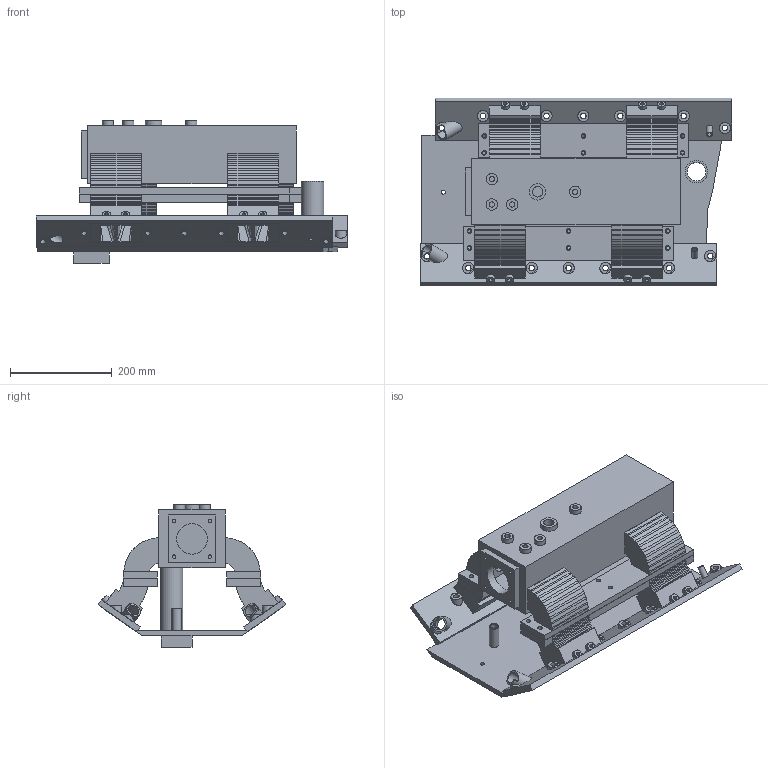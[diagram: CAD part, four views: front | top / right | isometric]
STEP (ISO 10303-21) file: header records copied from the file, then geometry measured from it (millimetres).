
FILE_DESCRIPTION(('Open CASCADE Model'),'2;1');
FILE_NAME('Open CASCADE Shape Model','2026-09-28T12:25:05',('Author'),( 'Open CASCADE'),'Open CASCADE STEP processor 8.0','build123d', 'Unknown');
FILE_SCHEMA(('AUTOMOTIVE_DESIGN { 1 0 10303 214 1 1 1 1 }'));
Products named in the file (1): COMPOUND
Bounding box: 612 x 369.55 x 279.91 mm (x, y, z)
Volume: 6089977.4 mm3; surface area: 1525098.5 mm2
Topology: 2 solids, 2 shells, 583 faces, 1739 edges, 1168 vertices
Faces by surface type: plane 321, cylinder 174, bspline 88
Full cylindrical faces by diameter (mm): 6.8 x16, 7 x8, 8 x3, 9 x12, 10.2 x4, 11 x14, 12 x2, 13 x1, 19 x1, 20.4 x1, 22 x12, 22.2 x4, 23 x2, 30 x2, 32.4 x1, 36 x1, 44 x1, 60 x1
Entity records: 66589 total; most frequent: CARTESIAN_POINT 33851, DIRECTION 5577, ORIENTED_EDGE 3430, PCURVE 3430, DEFINITIONAL_REPRESENTATION 3430, LINE 3276, VECTOR 3276, EDGE_CURVE 1715
